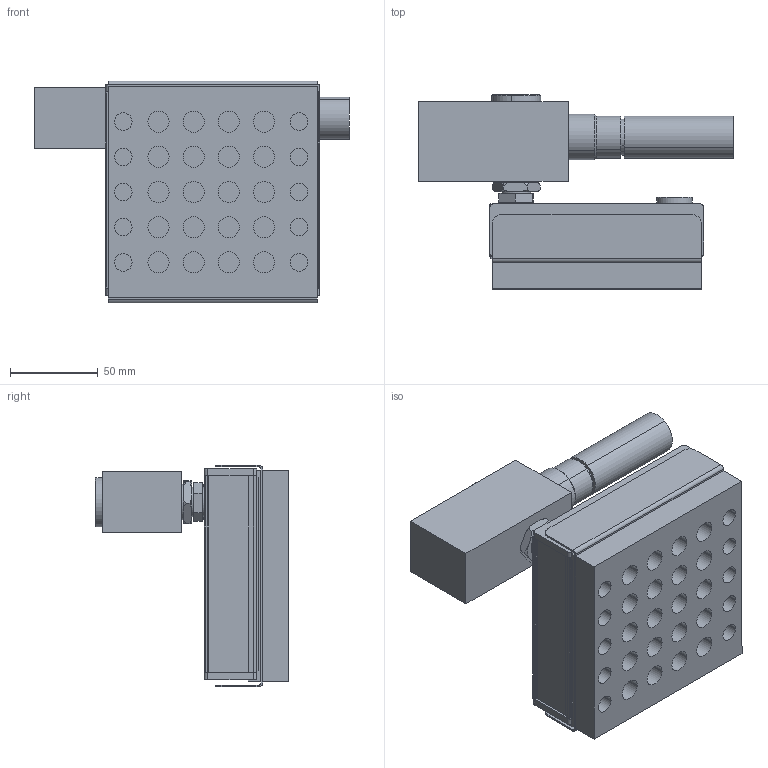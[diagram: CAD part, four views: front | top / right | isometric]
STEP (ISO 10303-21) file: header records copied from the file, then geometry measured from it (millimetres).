
FILE_DESCRIPTION (( 'STEP AP203' ), '1' );
FILE_NAME ('3-9-22220.STEP', '2018-08-01T13:33:23', ( '' ), ( '' ), 'SwSTEP 2.0', 'SolidWorks 2018', '' );
FILE_SCHEMA (( 'CONFIG_CONTROL_DESIGN' ));
Length unit declared in the file: millimetre
Products named in the file (1): 3-9-22220
Bounding box: 179 x 110.2 x 126 mm (x, y, z)
Volume: 839023.8 mm3; surface area: 108736 mm2
Topology: 1 solids, 1 shells, 268 faces, 610 edges, 390 vertices
Faces by surface type: plane 129, cylinder 115, cone 16, torus 6, bspline 2
Entity records: 7725 total; most frequent: CARTESIAN_POINT 1413, DIRECTION 1390, ORIENTED_EDGE 1220, EDGE_CURVE 610, AXIS2_PLACEMENT_3D 539, VERTEX_POINT 390, EDGE_LOOP 314, VECTOR 312
